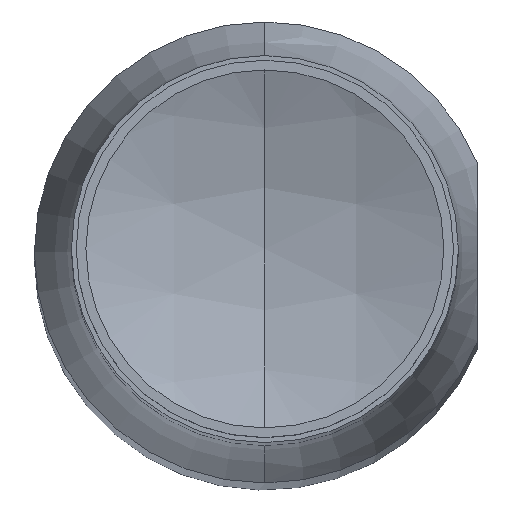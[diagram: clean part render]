
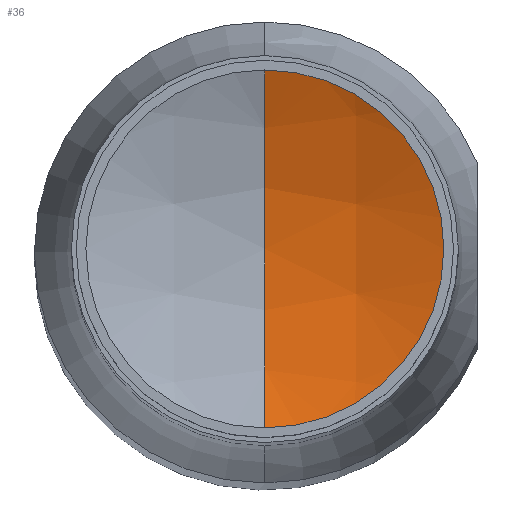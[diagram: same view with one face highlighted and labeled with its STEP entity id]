
A CAD part, top view. The second image highlights one B-rep face of the part: STEP entity #36.
In plain terms, the highlighted spherical face has radius 9.53 mm.
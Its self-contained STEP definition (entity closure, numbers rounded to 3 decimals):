
#4 = EDGE_CURVE ( 'NONE', #516, #204, #371, .T. ) ;
#11 = CARTESIAN_POINT ( 'NONE',  ( 0., 0., 0. ) ) ;
#24 = DIRECTION ( 'NONE',  ( -1., 0., 0. ) ) ;
#33 = VERTEX_POINT ( 'NONE', #492 ) ;
#36 = ADVANCED_FACE ( 'NONE', ( #123 ), #534, .F. ) ;
#91 = CARTESIAN_POINT ( 'NONE',  ( 0., 0., 8.782 ) ) ;
#103 = ORIENTED_EDGE ( 'NONE', *, *, #229, .F. ) ;
#108 = DIRECTION ( 'NONE',  ( 0., -1., 0. ) ) ;
#115 = ORIENTED_EDGE ( 'NONE', *, *, #175, .T. ) ;
#123 = FACE_OUTER_BOUND ( 'NONE', #451, .T. ) ;
#141 = AXIS2_PLACEMENT_3D ( 'NONE', #154, #24, #231 ) ;
#149 = DIRECTION ( 'NONE',  ( 0., 0., -1. ) ) ;
#154 = CARTESIAN_POINT ( 'NONE',  ( 0., 0., 8.782 ) ) ;
#175 = EDGE_CURVE ( 'NONE', #204, #33, #254, .T. ) ;
#176 = DIRECTION ( 'NONE',  ( 0., 1., 0. ) ) ;
#204 = VERTEX_POINT ( 'NONE', #474 ) ;
#229 = EDGE_CURVE ( 'NONE', #516, #33, #295, .T. ) ;
#230 = DIRECTION ( 'NONE',  ( 1., 0., 0. ) ) ;
#231 = DIRECTION ( 'NONE',  ( 0., -1., 0. ) ) ;
#243 = AXIS2_PLACEMENT_3D ( 'NONE', #91, #230, #149 ) ;
#244 = DIRECTION ( 'NONE',  ( -1., 0., 0. ) ) ;
#250 = CARTESIAN_POINT ( 'NONE',  ( 0., 0., 8.782 ) ) ;
#254 = CIRCLE ( 'NONE', #523, 3.7 ) ;
#295 = CIRCLE ( 'NONE', #243, 9.53 ) ;
#315 = CARTESIAN_POINT ( 'NONE',  ( 0., 0., -0.748 ) ) ;
#371 = CIRCLE ( 'NONE', #141, 9.53 ) ;
#432 = DIRECTION ( 'NONE',  ( 0., 0., 1. ) ) ;
#451 = EDGE_LOOP ( 'NONE', ( #103, #525, #115 ) ) ;
#474 = CARTESIAN_POINT ( 'NONE',  ( 0., -3.7, 0. ) ) ;
#489 = AXIS2_PLACEMENT_3D ( 'NONE', #250, #244, #176 ) ;
#492 = CARTESIAN_POINT ( 'NONE',  ( 0., 3.7, 0. ) ) ;
#516 = VERTEX_POINT ( 'NONE', #315 ) ;
#523 = AXIS2_PLACEMENT_3D ( 'NONE', #11, #432, #108 ) ;
#525 = ORIENTED_EDGE ( 'NONE', *, *, #4, .T. ) ;
#534 = SPHERICAL_SURFACE ( 'NONE', #489, 9.53 ) ;
